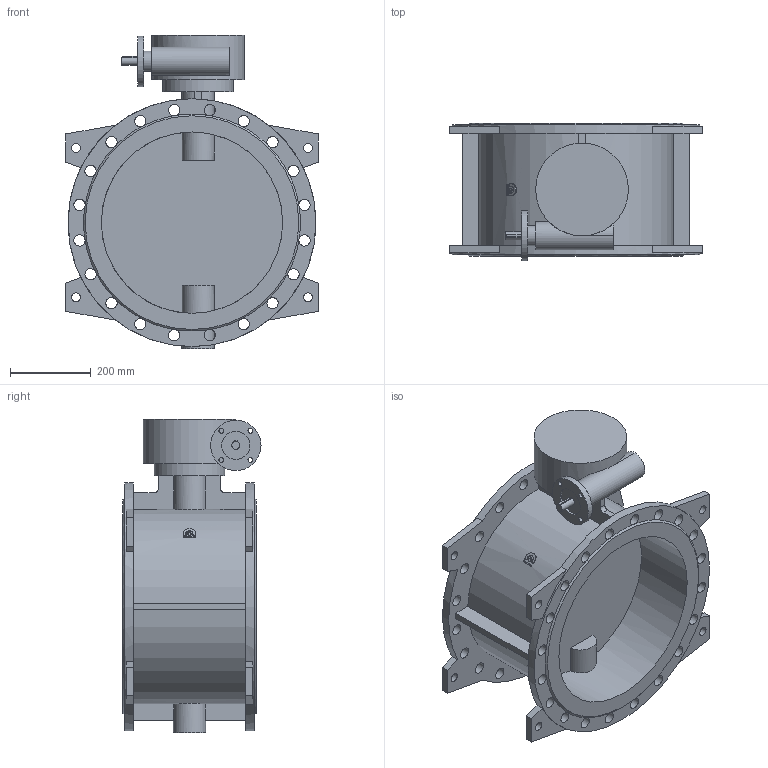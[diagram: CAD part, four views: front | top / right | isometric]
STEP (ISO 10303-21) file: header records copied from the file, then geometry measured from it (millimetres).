
FILE_DESCRIPTION(('STEP AP203'), '1');
FILE_NAME('Çàòâîð 023F.Z DN450 PN10_ð-ð_ôë', '', ('UNSPECIFIED'), ('UNSPECIFIED'), 'ASCON STEP Converter 1.6', 'ASCON Math Kernel', '');
FILE_SCHEMA(('CONFIG_CONTROL_DESIGN'));
Length unit declared in the file: millimetre
Bounding box: 626 x 342.5 x 778 mm (x, y, z)
Volume: 28340679 mm3; surface area: 2240599.8 mm2
Topology: 1 solids, 1 shells, 187 faces, 604 edges, 402 vertices
Faces by surface type: plane 95, cylinder 90, cone 2
Full cylindrical faces by diameter (mm): 12 x4, 14 x4, 18 x4, 20 x1, 22 x8, 28 x40, 50 x1, 70 x2, 80 x1, 125 x1, 175 x1, 230 x1, 450 x2, 615 x2
Entity records: 10942 total; most frequent: CARTESIAN_POINT 4071, DIRECTION 1117, ORIENTED_EDGE 1052, EDGE_CURVE 526, AXIS2_PLACEMENT_3D 463, VERTEX_POINT 401, EDGE_LOOP 349, CIRCLE 276
